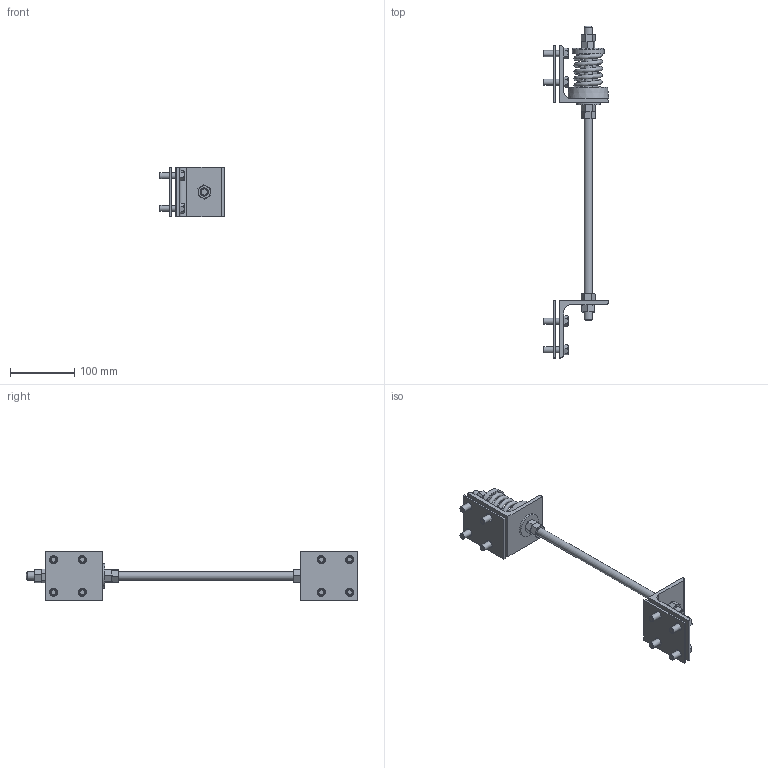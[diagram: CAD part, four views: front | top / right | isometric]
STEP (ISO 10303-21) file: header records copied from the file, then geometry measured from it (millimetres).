
FILE_DESCRIPTION((''),'2;1');
FILE_NAME('C:\2012_Work\Designs\WBI, WBD\A-310\WBD-A-310_THRUST-RESTRAINT.stp','2013-10-22T12:45:08',('KShiels'),(''),'Autodesk Inventor 2012','Autodesk Inventor 2012','');
FILE_SCHEMA(('AUTOMOTIVE_DESIGN { 1 0 10303 214 1 1 1 1 }'));
Length unit declared in the file: inch
Products named in the file (15): WBD-A-310_THRUST-RESTRAINT; A-16386 WBI, WBD-A-310_ANGLE; A-16260 WBI, WBD-A-310_FIXED-SIDE-MOUNTING-ANGLE; ANSI B18.2.2 - 1_2 - 13(2)_WBI,WBD-A-310; A-16261 WBI, WBD-A-310_MOUNTING-PLATE; ANSI_ASME B18.2.1 - 3_8-16 UNC - 1.25(2)_WBI, WBD-BOLT; A-16386 WBD-A-310_SPRING_MOUNT; A-16259 WBI, WBD-A-310_SPRING-MOUNTING-ANGLE; Stamped Steel Spring Cup A-21/32-Standard-A-3267-8; A-8587-2R LDS HANGER CUP-WBI-A; A-8587-2R LDS CUP A-WBI-A; A-8587-2R WASHER A-WBI-A; A-16386 WBI, WBD-A-310_WASHER; A-16260 WBI, WBD-A-310_SPRING; THREADED-ROD_0.5-13UNC, 18in-LONG
Assembly tree (27 placements, depth 4):
  WBD-A-310_THRUST-RESTRAINT
    A-16386 WBI, WBD-A-310_ANGLE
      A-16260 WBI, WBD-A-310_FIXED-SIDE-MOUNTING-ANGLE
      ANSI B18.2.2 - 1_2 - 13(2)_WBI,WBD-A-310  x2
      A-16261 WBI, WBD-A-310_MOUNTING-PLATE
      ANSI_ASME B18.2.1 - 3_8-16 UNC - 1.25(2)_WBI, WBD-BOLT  x4
    A-16386 WBD-A-310_SPRING_MOUNT
      A-16259 WBI, WBD-A-310_SPRING-MOUNTING-ANGLE
      ANSI B18.2.2 - 1_2 - 13(2)_WBI,WBD-A-310  x4
      Stamped Steel Spring Cup A-21/32-Standard-A-3267-8
      A-8587-2R LDS HANGER CUP-WBI-A
        A-8587-2R LDS CUP A-WBI-A
        A-8587-2R WASHER A-WBI-A
      A-16386 WBI, WBD-A-310_WASHER
      A-16260 WBI, WBD-A-310_SPRING
      ANSI_ASME B18.2.1 - 3_8-16 UNC - 1.25(2)_WBI, WBD-BOLT  x4
      A-16261 WBI, WBD-A-310_MOUNTING-PLATE
    THREADED-ROD_0.5-13UNC, 18in-LONG
Bounding box: 101.6 x 515.92 x 76.2 mm (x, y, z)
Volume: 351329.3 mm3; surface area: 162405.3 mm2
Topology: 24 solids, 24 shells, 442 faces, 954 edges, 573 vertices
Faces by surface type: plane 214, cone 151, cylinder 67, torus 9, bspline 1
Full cylindrical faces by diameter (mm): 9.525 x8, 9.855 x8, 10.592 x6, 12.7 x17, 14.275 x8, 14.288 x2, 16.669 x1, 25.4 x1, 31.75 x4, 38.1 x1, 43.656 x1, 45.244 x1, 49.039 x1, 53.975 x2
Entity records: 5179 total; most frequent: CARTESIAN_POINT 1986, DIRECTION 635, ORIENTED_EDGE 452, AXIS2_PLACEMENT_3D 278, EDGE_CURVE 226, EDGE_LOOP 212, VERTEX_POINT 166, FACE_OUTER_BOUND 128
